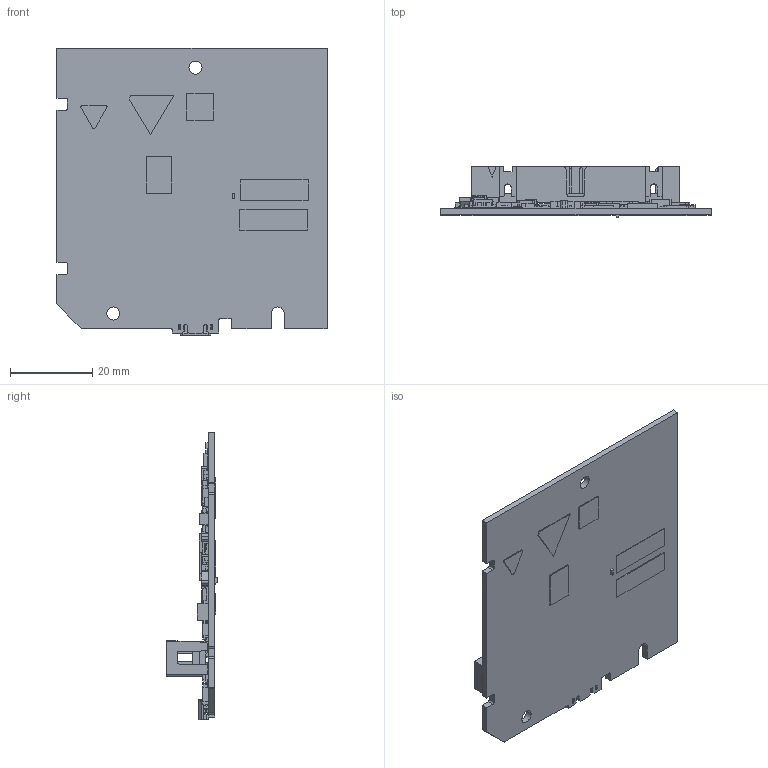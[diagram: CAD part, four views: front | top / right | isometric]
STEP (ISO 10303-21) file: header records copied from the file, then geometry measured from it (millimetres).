
FILE_DESCRIPTION((''),'2;1');
FILE_NAME('CU_USB-6000-OEM','2016-02-25T',('dkendric'),(''),'PRO/ENGINEER BY PARAMETRIC TECHNOLOGY CORPORATION, 2015280','PRO/ENGINEER BY PARAMETRIC TECHNOLOGY CORPORATION, 2015280','');
FILE_SCHEMA(('CONFIG_CONTROL_DESIGN'));
Length unit declared in the file: inch
Products named in the file (1): CU_USB-6000-OEM
Bounding box: 65.72 x 12.37 x 70.04 mm (x, y, z)
Volume: 10138.3 mm3; surface area: 13955.8 mm2
Topology: 1 solids, 1 shells, 2109 faces, 5627 edges, 3718 vertices
Faces by surface type: plane 1864, cylinder 219, extrusion 20, cone 6
Entity records: 65573 total; most frequent: CARTESIAN_POINT 12470, ORIENTED_EDGE 11254, DIRECTION 10186, EDGE_CURVE 5627, VECTOR 5140, LINE 5120, VERTEX_POINT 3718, AXIS2_PLACEMENT_3D 2523
